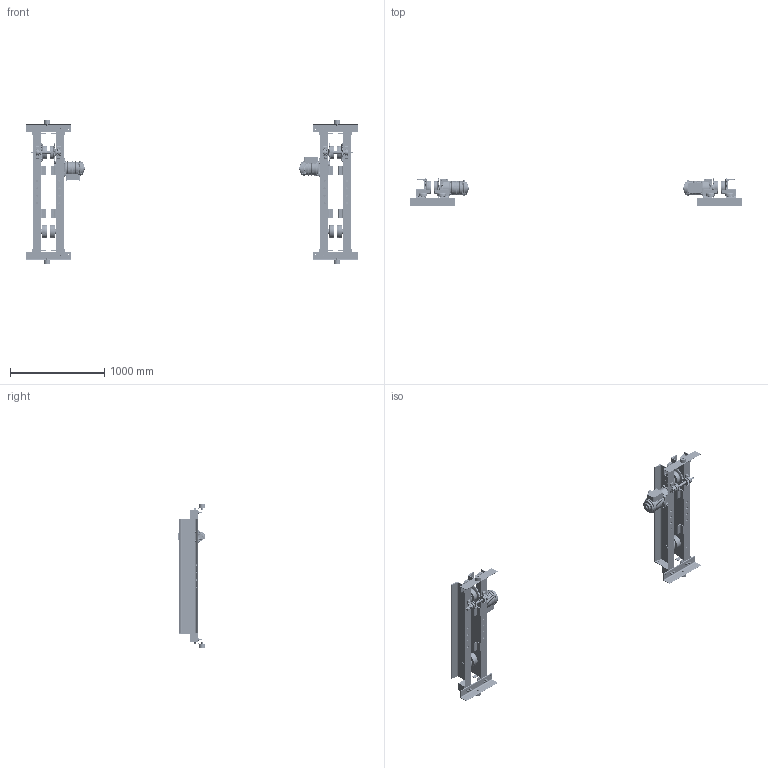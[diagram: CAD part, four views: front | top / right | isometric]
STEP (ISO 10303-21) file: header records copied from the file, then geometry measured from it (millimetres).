
FILE_DESCRIPTION (( 'STEP AP214' ), '1' );
FILE_NAME ('UML-3-0535.STEP', '2026-08-11T17:18:56', ( '' ), ( '' ), 'SwSTEP 2.0', 'SolidWorks 2026', '' );
FILE_SCHEMA (( 'AUTOMOTIVE_DESIGN' ));
Length unit declared in the file: millimetre
Products named in the file (87): G1JE040S9303.STEP; 62342XXU_6234202U.STEP; 9000605.STEP; 9093101_9093101.STEP; 6232404.STEP; 62340XXU_6234002U.STEP; 6232303.STEP; 6257002_A308-308-006-4.STEP; N6QL210209.STEP; 6257003-1.STEP; 9012515_9012515.STEP; MS555010_MS555010.STEP; 6257002_A308-308-006-0.STEP; G1JE040S9401.STEP; G1JE025S9603.STEP; 9091256_B18.3.1M - 6 x 1.0 x 50 Hex SHCS -- 24CHX.STEP; G1JE025S9610.STEP; 6257003-4.STEP; G1CM040L_ROTATED 180 DEGREES.STEP; UML-3-0535.STEP; 9047140_9047140.STEP; 9798526_9798526.STEP; 5204405_5204405.STEP; 9093433_9093433.STEP; N6QL5301101.STEP; 6257002_A308-308-006-1.STEP; 9093329_9093329.STEP; N6QL520113.STEP; 6257003-2.STEP; N6QL210115.STEP; G1CM040L_NORMAL.STEP; 6257003-5.STEP; G1JE040S9609.STEP; N6QO3101108_N6QO3101108.STEP; 9093427_9093427.STEP; 9047268_B27.7M - 3BM1-68.STEP; 62339XXU_6233902U.STEP; 9093424_9093424.STEP; G1JE040S9503.STEP; 9093146_9093146.STEP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
Assembly tree (388 placements, depth 6):
  UML-3-0535
    UML-3-0535.STEP
      62341XXU_6234102U.STEP
        62338XXU_6233802U.STEP
          6257003.STEP
            6257002_A308-308-006.STEP
            6257001.STEP
          6257003-1.STEP
            6257002_A308-308-006-0.STEP
            6257001.STEP
          MC08-021.4_48.STEP
        6232303.STEP  x2
        6232304.STEP  x2
        5204405_5204405.STEP  x2
        6233203.STEP  x2
        6257005.STEP
      62342XXU_6234202U.STEP  x2
        62339XXU_6233902U.STEP
          6257003-2.STEP
            6257002_A308-308-006-1.STEP
            6257001.STEP
          6257003-3.STEP
            6257002_A308-308-006-2.STEP
            6257001.STEP
          MC08-021.4_48-3.STEP
        6232303.STEP
        6232304.STEP
        5204405_5204405.STEP
        6233203.STEP
      62343XXU_6234302U.STEP
        62340XXU_6234002U.STEP
          6257003-4.STEP
            6257002_A308-308-006-4.STEP
            6257001.STEP
          6257003-5.STEP
            6257002_A308-308-006-5.STEP
            6257001.STEP
          MC08-021.4_48-6.STEP
        6232303.STEP  x2
        6232304.STEP  x2
        5204405_5204405.STEP  x2
        6233203.STEP  x2
        6257005.STEP
      6234503.STEP  x4
        6232603.STEP
        9047268_B27.7M - 3BM1-68.STEP
        9000508.STEP
      N6QL5301101.STEP  x4
        N6QL530E9101_Domestic.STEP
        9047268_B27.7M - 3BM1-68.STEP
        9000508.STEP
      N6QO3101108_N6QO3101108.STEP  x8
        N6QO310E9108_N6QO3101108 DOMESTIC.STEP
        9047252_9047252.STEP
        9000605.STEP
      G1CM040L_ROTATED 180 DEGREES.STEP
        G1JE040S9303.STEP
        G1JE040S9310.STEP
        G1JE040S9401.STEP
        G1JE040S9609.STEP
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Bounding box: 3519.98 x 302.89 x 1525.81 mm (x, y, z)
Volume: 38744402.8 mm3; surface area: 8280740.9 mm2
Topology: 410 solids, 9218 shells, 26924 faces, 94018 edges, 76900 vertices
Faces by surface type: plane 13316, cylinder 7296, cone 3306, bspline 1914, torus 858, sphere 234
Entity records: 247146 total; most frequent: CARTESIAN_POINT 106966, ORIENTED_EDGE 27014, DIRECTION 24588, EDGE_CURVE 15495, VERTEX_POINT 11279, AXIS2_PLACEMENT_3D 9726, EDGE_LOOP 5700, B_SPLINE_CURVE_WITH_KNOTS 5563
